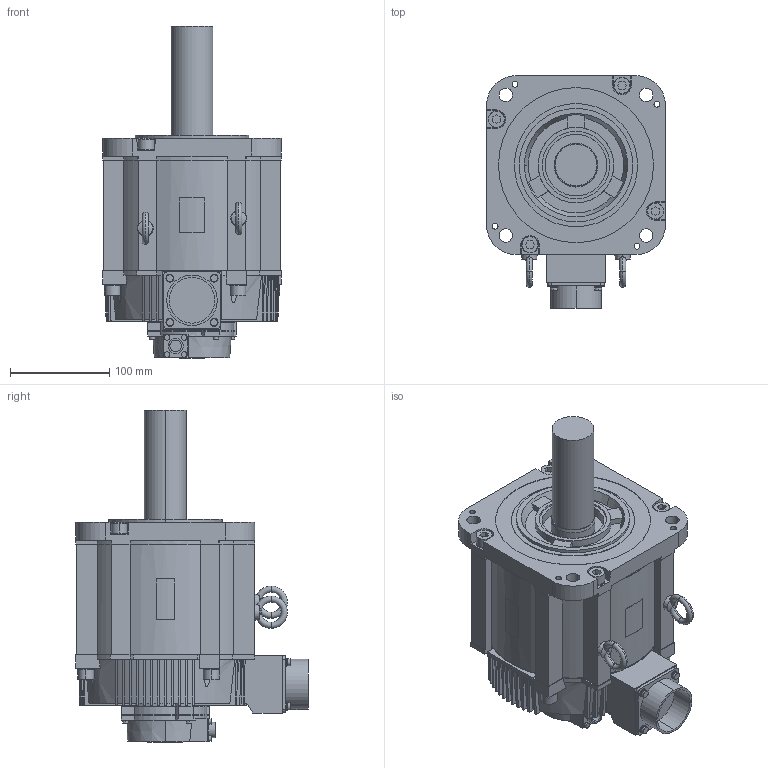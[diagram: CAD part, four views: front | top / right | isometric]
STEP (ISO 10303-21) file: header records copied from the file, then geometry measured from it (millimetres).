
FILE_DESCRIPTION (( 'STEP AP203' ), '1' );
FILE_NAME ('sgm7g_55__a21.STEP', '2014-05-07T05:09:53', ( '匠エンジニアリング山之内' ), ( 'TAKUMI-Engniaring' ), 'SwSTEP 2.0', 'SolidWorks 2006303', '' );
FILE_SCHEMA (( 'CONFIG_CONTROL_DESIGN' ));
Length unit declared in the file: millimetre
Products named in the file (3): sgm7g_55__a21_base; sgm7g_55__a21_eyebolt; sgm7g_55__a21
Assembly tree (3 placements, depth 2):
  sgm7g_55__a21
    sgm7g_55__a21_base
    sgm7g_55__a21_eyebolt  x2
Bounding box: 180 x 233.75 x 334.1 mm (x, y, z)
Volume: 5209364.8 mm3; surface area: 282968.4 mm2
Topology: 3 solids, 3 shells, 914 faces, 2443 edges, 1604 vertices
Faces by surface type: plane 584, cylinder 220, cone 102, torus 8
Entity records: 29295 total; most frequent: CARTESIAN_POINT 6018, ORIENTED_EDGE 4832, DIRECTION 4781, EDGE_CURVE 2416, AXIS2_PLACEMENT_3D 1644, VERTEX_POINT 1588, VECTOR 1493, LINE 1493
